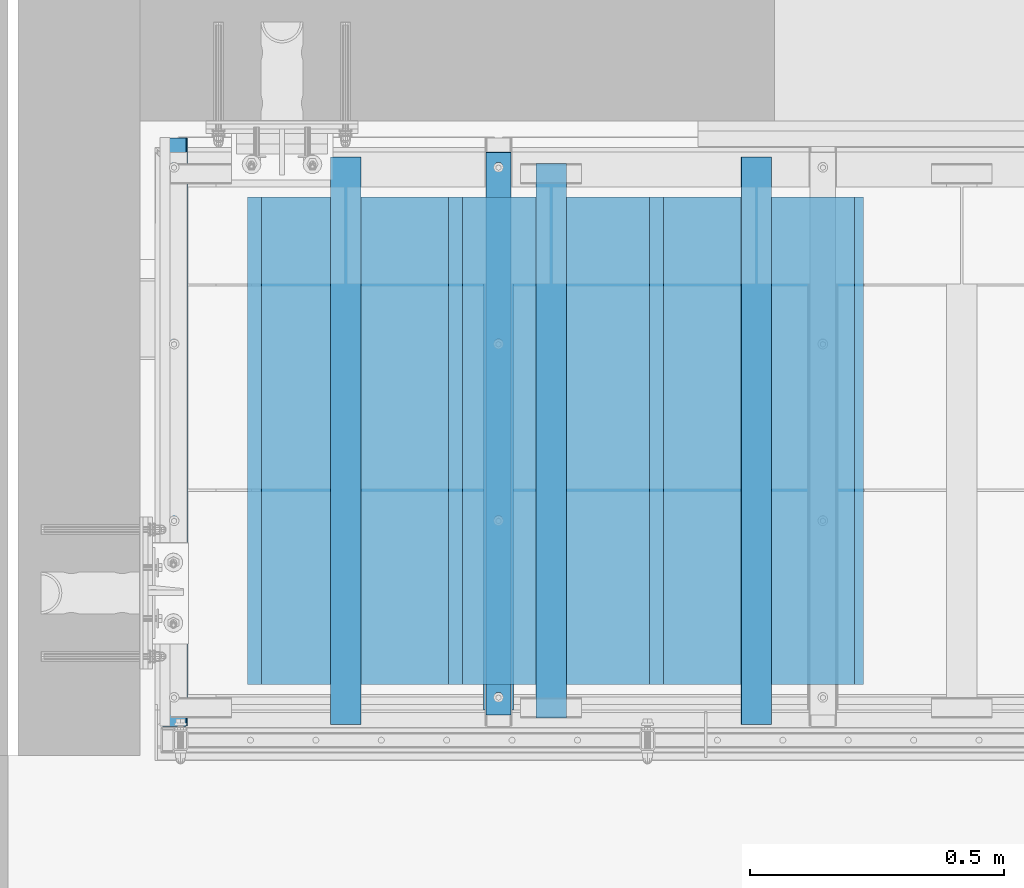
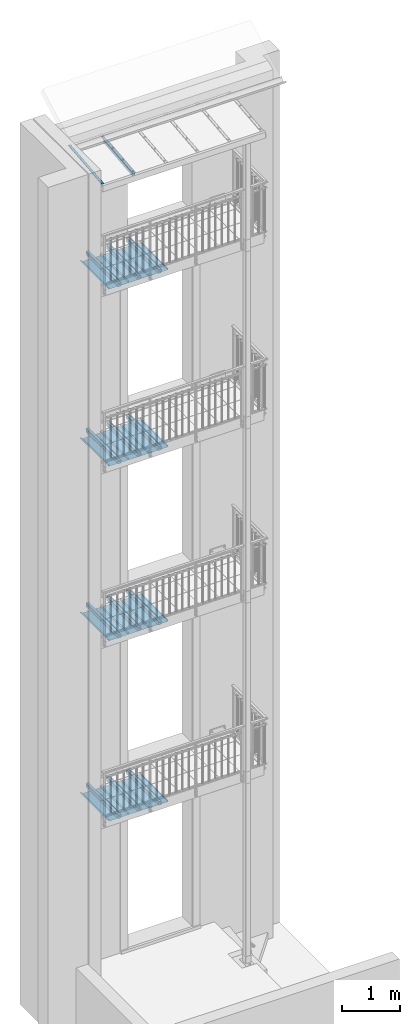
# One storey, part 38 of 162: 24 beams, 3 members, 10 openings.
"""IFC2X3 building model written with IfcOpenShell, lengths in millimetres."""

import ifcopenshell
import ifcopenshell.guid

model = None  # the IFC model being written
_history = None  # IfcOwnerHistory: only IFC2X3 demands one
_inside = {}  # id of a spatial element -> (the spatial element, [elements in it])
_under = {}  # id of a project, library or spatial element -> (it, [spatial elements below it])
_declared = {}  # id of a project -> (the project, [libraries it declares])
_typed = {}  # id of a type object -> (the type object, [elements of that type])
_made_of = {}  # id of a material, layer set ... -> (it, [elements and type objects made of it])


def new_model(schema):
    """Start an empty IFC model of exactly this schema.

    Asked for "IFC4X3", IfcOpenShell would pick the latest addendum, in which some entities
    have other attributes; the version numbers below select the first issue.
    IFC2X3 requires an IfcOwnerHistory on every rooted entity: one is made here for all.
    """
    global model, _history
    if schema == "IFC4X3":
        model = ifcopenshell.file(schema_version=(4, 3, 0, 0))
    else:
        model = ifcopenshell.file(schema=schema)
    _inside.clear()
    _under.clear()
    _declared.clear()
    _typed.clear()
    _made_of.clear()
    _history = None
    if model.schema == "IFC2X3":
        org = make("IfcOrganization", Name="unknown")
        user = make(
            "IfcPersonAndOrganization",
            ThePerson=make("IfcPerson", FamilyName="unknown"),
            TheOrganization=org,
        )
        app = make(
            "IfcApplication",
            ApplicationDeveloper=org,
            Version="unknown",
            ApplicationFullName="unknown",
            ApplicationIdentifier="unknown",
        )
        _history = make(
            "IfcOwnerHistory",
            OwningUser=user,
            OwningApplication=app,
            ChangeAction="ADDED",
            CreationDate=0,
        )
    return model


def make(cls, **values):
    """One entity of the class cls with the attributes given. An attribute that is None is left unset."""
    return model.create_entity(
        cls, **{name: value for name, value in values.items() if value is not None}
    )


def entity(cls, *values):
    """Any entity or typed value of the class cls, its attributes in the order of the schema. None: left unset."""
    e = model.create_entity(cls)
    for i, value in enumerate(values):
        if value is not None:
            e[i] = value
    return e


def rooted(cls, **values):
    """An entity with a GlobalId (a new one), such as an element, a storey or a relation."""
    return make(cls, GlobalId=ifcopenshell.guid.new(), OwnerHistory=_history, **values)


def si_unit(unit_type, name, prefix=None):
    """IfcSIUnit, for example si_unit("LENGTHUNIT", "METRE", prefix="MILLI")."""
    return make("IfcSIUnit", UnitType=unit_type, Prefix=prefix, Name=name)


def converted_unit(unit_type, name, factor, base, dimensions=None, offset=None):
    """IfcConversionBasedUnit, such as the inch: factor (a typed value) times the base unit."""
    return make(
        "IfcConversionBasedUnit"
        if offset is None
        else "IfcConversionBasedUnitWithOffset",
        ConversionOffset=offset,
        Dimensions=None
        if dimensions is None
        else entity("IfcDimensionalExponents", *dimensions),
        UnitType=unit_type,
        Name=name,
        ConversionFactor=make(
            "IfcMeasureWithUnit", ValueComponent=factor, UnitComponent=base
        ),
    )


def assignment(units):
    """IfcUnitAssignment: the units of a project."""
    return None if units is None else make("IfcUnitAssignment", Units=units)


def point(xyz):
    """IfcCartesianPoint."""
    return None if xyz is None else make("IfcCartesianPoint", Coordinates=xyz)


def direction(xyz):
    """IfcDirection."""
    return None if xyz is None else make("IfcDirection", DirectionRatios=xyz)


def frame(location, z_axis=None, x_axis=None):
    """IfcAxis2Placement3D, a coordinate frame: its origin and axes. An axis left out is left unset."""
    return make(
        "IfcAxis2Placement3D",
        Location=point(location),
        Axis=direction(z_axis),
        RefDirection=direction(x_axis),
    )


def frame_2d(location, x_axis=None):
    """IfcAxis2Placement2D, a coordinate frame in the plane: its origin and x axis."""
    return make(
        "IfcAxis2Placement2D", Location=point(location), RefDirection=direction(x_axis)
    )


def origin():
    """The frame at (0, 0, 0) with its axes left unset."""
    return frame((0.0, 0.0, 0.0))


def origin_with_axes():
    """The frame at (0, 0, 0) with the z axis (0, 0, 1) and the x axis (1, 0, 0) written out."""
    return frame((0.0, 0.0, 0.0), z_axis=(0.0, 0.0, 1.0), x_axis=(1.0, 0.0, 0.0))


def origin_2d():
    """The frame at (0, 0) in the plane with its x axis left unset."""
    return frame_2d((0.0, 0.0))


def origin_2d_with_axis():
    """The frame at (0, 0) in the plane with the x axis (1, 0) written out."""
    return frame_2d((0.0, 0.0), x_axis=(1.0, 0.0))


def place(relative_to, where):
    """IfcLocalPlacement: puts the frame where relative to a parent placement (None: the world)."""
    return make(
        "IfcLocalPlacement", PlacementRelTo=relative_to, RelativePlacement=where
    )


def context(
    kind, dimensions, precision=None, world=None, true_north=None, identifier=None
):
    """IfcGeometricRepresentationContext, for example the 3D "Model" context."""
    return make(
        "IfcGeometricRepresentationContext",
        ContextIdentifier=identifier,
        ContextType=kind,
        CoordinateSpaceDimension=dimensions,
        Precision=precision,
        WorldCoordinateSystem=world,
        TrueNorth=true_north,
    )


def project(units=None, contexts=None):
    """IfcProject with its units and contexts."""
    return rooted(
        "IfcProject",
        Name="project",
        RepresentationContexts=contexts,
        UnitsInContext=assignment(units),
    )


def spatial(cls, under=None, at=None, **own):
    """A site, building, storey or space (cls), placed at a placement, below another one or the project."""
    s = rooted(cls, ObjectPlacement=at, **own)
    if under is not None:
        _under.setdefault(under.id(), (under, []))[1].append(s)
    return s


def polyline(points):
    """IfcPolyline through the points."""
    return make("IfcPolyline", Points=[point(p) for p in points])


def circle_curve(where, radius):
    """IfcCircle in the frame where."""
    return make("IfcCircle", Position=where, Radius=radius)


def line_curve(start, along, magnitude):
    """IfcLine from a point along a vector."""
    return make(
        "IfcLine",
        Pnt=point(start),
        Dir=make("IfcVector", Orientation=direction(along), Magnitude=magnitude),
    )


def trimmed(basis, trim1, trim2, sense, master):
    """IfcTrimmedCurve: the piece of a basis curve between two trims."""
    return make(
        "IfcTrimmedCurve",
        BasisCurve=basis,
        Trim1=trim1,
        Trim2=trim2,
        SenseAgreement=sense,
        MasterRepresentation=master,
    )


def segment(curve, same_sense, transition):
    """IfcCompositeCurveSegment."""
    return make(
        "IfcCompositeCurveSegment",
        Transition=transition,
        SameSense=same_sense,
        ParentCurve=curve,
    )


def composite_curve(segments, self_intersect=None):
    """IfcCompositeCurve: segments joined end to end."""
    return make("IfcCompositeCurve", Segments=segments, SelfIntersect=self_intersect)


def profile(cls, at=None, kind="AREA", **sizes):
    """A parametric profile (cls). Its sizes go by their IFC names, for example OverallWidth=200.0."""
    return make(cls, ProfileType=kind, Position=at, **sizes)


def hollow_rectangle(**sizes):
    """IfcRectangleHollowProfileDef."""
    return profile("IfcRectangleHollowProfileDef", **sizes)


def circle(**sizes):
    """IfcCircleProfileDef."""
    return profile("IfcCircleProfileDef", **sizes)


def outline(outer, holes=None, kind="AREA"):
    """IfcArbitraryClosedProfileDef: a profile drawn as a closed curve; with holes, ...WithVoids."""
    if holes is None:
        return make("IfcArbitraryClosedProfileDef", ProfileType=kind, OuterCurve=outer)
    return make(
        "IfcArbitraryProfileDefWithVoids",
        ProfileType=kind,
        OuterCurve=outer,
        InnerCurves=holes,
    )


def extrude(swept, where, along, depth):
    """IfcExtrudedAreaSolid: the profile swept, set in the frame where, extruded along a direction by depth."""
    return make(
        "IfcExtrudedAreaSolid",
        SweptArea=swept,
        Position=where,
        ExtrudedDirection=direction(along),
        Depth=depth,
    )


def shape(context_of_items, identifier, shape_type, items):
    """IfcShapeRepresentation: the items that make up one representation, for example the "Body"."""
    return make(
        "IfcShapeRepresentation",
        ContextOfItems=context_of_items,
        RepresentationIdentifier=identifier,
        RepresentationType=shape_type,
        Items=items,
    )


def material(Name=None, Category=None):
    """IfcMaterial."""
    return make("IfcMaterial", Name=Name, Category=Category)


def made_of(thing, what):
    """Note that an element or type object is made of a material, layer set ...; save() writes the relation."""
    if what is not None:
        _made_of.setdefault(what.id(), (what, []))[1].append(thing)
    return thing


def element(
    cls,
    number,
    at=None,
    inside=None,
    cuts=None,
    type_object=None,
    material=None,
    context=None,
    identifier="Body",
    shape_type=None,
    held_by="IfcProductDefinitionShape",
    body=None,
    shapes=None,
    **own,
):
    """One element of the class cls, such as IfcWall. Its Tag is "e" and its number.

    at: its placement. inside: the storey or other place that contains it. cuts: it is an
    opening in that element (IfcRelVoidsElement). A single representation is given by context,
    identifier, shape_type and body (its items); several are given by shapes. held_by: the class
    of the entity that holds the representations. save() writes the other relations.
    """
    e = rooted(cls, Tag="e%d" % number, ObjectPlacement=at, **own)
    if body is not None:
        shapes = [shape(context, identifier, shape_type, body)]
    if shapes is not None:
        e.Representation = make(held_by, Representations=shapes)
    if inside is not None:
        _inside.setdefault(inside.id(), (inside, []))[1].append(e)
    if cuts is not None:
        rooted(
            "IfcRelVoidsElement", RelatingBuildingElement=cuts, RelatedOpeningElement=e
        )
    if type_object is not None:
        _typed.setdefault(type_object.id(), (type_object, []))[1].append(e)
    return made_of(e, material)


def aggregate(whole, parts):
    """IfcRelAggregates: a whole, such as a stair, and the parts it consists of."""
    return rooted("IfcRelAggregates", RelatingObject=whole, RelatedObjects=parts)


def save(model, path):
    """Write the relations noted so far, then the file.

    IfcRelAggregates (storeys below a building ...), IfcRelContainedInSpatialStructure (elements
    in a storey), IfcRelDefinesByType, IfcRelAssociatesMaterial and IfcRelDeclares: one each for
    every whole, place, type object, material and project.
    """
    for whole, parts in _under.values():
        aggregate(whole, parts)
    for where, things in _inside.values():
        rooted(
            "IfcRelContainedInSpatialStructure",
            RelatedElements=things,
            RelatingStructure=where,
        )
    for kind, things in _typed.values():
        rooted("IfcRelDefinesByType", RelatedObjects=things, RelatingType=kind)
    for what, things in _made_of.values():
        rooted("IfcRelAssociatesMaterial", RelatedObjects=things, RelatingMaterial=what)
    for by, libraries in _declared.values():
        rooted("IfcRelDeclares", RelatingContext=by, RelatedDefinitions=libraries)
    model.write(path)


model = new_model("IFC2X3")

# Units and contexts
model_context = context("Model", 3, precision=1e-09, world=origin_with_axes())
ifc_project = project(units=[si_unit("LENGTHUNIT", "METRE", prefix="MILLI"), si_unit("AREAUNIT", "SQUARE_METRE"), si_unit("VOLUMEUNIT", "CUBIC_METRE"), converted_unit("PLANEANGLEUNIT", "DEGREE", entity("IfcPlaneAngleMeasure", 0.01745329), si_unit("PLANEANGLEUNIT", "RADIAN"), dimensions=[0, 0, 0, 0, 0, 0, 0])], contexts=[model_context])

# Site, building, storey
site_placement = place(None, origin_with_axes())
site = spatial("IfcSite", under=ifc_project, at=site_placement, Name="Hermannstra?e 1a, 60318 Frankfurt", CompositionType="ELEMENT")
building_placement = place(site_placement, origin_with_axes())
building = spatial("IfcBuilding", under=site, at=building_placement, Name="Struktur 1", CompositionType="ELEMENT")
storey_placement = place(building_placement, origin_with_axes())
storey = spatial("IfcBuildingStorey", under=building, at=storey_placement, Name="Default Storey", CompositionType="ELEMENT", Elevation=0.0)

# Beams
ifc_material_1 = material(Name="S235JR")
for number, where, z_axis, x_axis in (
    (1, (3738.05936482, 1546.109373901, 7685.0), (0.0, 1.0, 0.0), (-1.0, 0.0, 0.0)),
    (2, (2929.05936482, 1546.109373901, 7685.0), (0.0, 1.0, 0.0), (-1.0, 0.0, 0.0)),
):
    element("IfcBeam", number, at=place(None, frame(where, z_axis=z_axis, x_axis=x_axis)), inside=storey, material=ifc_material_1, Name="-", ObjectType="-", context=model_context, shape_type="SweptSolid", body=[
        extrude(hollow_rectangle(XDim=60.0, YDim=80.0, WallThickness=4.0, InnerFilletRadius=4.0, OuterFilletRadius=8.0, at=origin_2d()), origin(), (0.0, 0.0, 1.0), 1119.0),
    ])
beam_1_placement = place(None, frame((3333.55936482, 1559.609373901, 7685.0), z_axis=(0.0, 1.0, 0.0), x_axis=(-1.0, 0.0, 0.0)))
element("IfcBeam", 3, at=beam_1_placement, inside=storey, material=ifc_material_1, Name="-", ObjectType="-", context=model_context, shape_type="SweptSolid", body=[
    extrude(hollow_rectangle(XDim=60.0, YDim=80.0, WallThickness=4.0, InnerFilletRadius=4.0, OuterFilletRadius=8.0, at=origin_2d()), origin(), (0.0, 0.0, 1.0), 1092.0),
])
ifc_material_2 = material(Name="Alu")
for number, where, z_axis, x_axis in (
    (4, (3552.80936482, 1625.609373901, 7595.0), (0.0, -1.0, 0.0), (1.0, 0.0, 0.0)),
    (5, (3156.80936482, 1625.609373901, 7595.0), (0.0, -1.0, 0.0), (1.0, 0.0, 0.0)),
    (6, (3948.80936482, 1625.609373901, 7595.0), (0.0, -1.0, 0.0), (1.0, 0.0, 0.0)),
):
    element("IfcBeam", number, at=place(None, frame(where, z_axis=z_axis, x_axis=x_axis)), inside=storey, material=ifc_material_2, Name="-", ObjectType="-", context=model_context, shape_type="SweptSolid", body=[
        extrude(outline(polyline([(-421.449159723, 31.122617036), (-396.0, 34.699263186), (-396.0, 0.0), (0.0, 0.0), (0.0, 34.0), (-17.824825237, 31.494884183), (-17.546479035, 29.514348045), (-2.0, 31.699263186), (-2.0, 2.0), (-394.0, 2.0), (-394.0, 37.0), (-421.727505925, 33.103153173), (-421.449159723, 31.122617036)])), origin(), (0.0, 0.0, -1.0), 960.0),
    ])
for number, where, z_axis, x_axis in (
    (7, (3738.05936482, 1546.109373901, 11384.999), (0.0, 1.0, 0.0), (-1.0, 0.0, 0.0)),
    (8, (2929.05936482, 1546.109373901, 11384.999), (0.0, 1.0, 0.0), (-1.0, 0.0, 0.0)),
):
    element("IfcBeam", number, at=place(None, frame(where, z_axis=z_axis, x_axis=x_axis)), inside=storey, material=ifc_material_1, Name="-", ObjectType="-", context=model_context, shape_type="SweptSolid", body=[
        extrude(hollow_rectangle(XDim=60.0, YDim=80.0, WallThickness=4.0, InnerFilletRadius=4.0, OuterFilletRadius=8.0, at=origin_2d()), origin(), (0.0, 0.0, 1.0), 1119.0),
    ])
beam_2_placement = place(None, frame((3333.55936482, 1559.609373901, 11384.999), z_axis=(0.0, 1.0, 0.0), x_axis=(-1.0, 0.0, 0.0)))
element("IfcBeam", 9, at=beam_2_placement, inside=storey, material=ifc_material_1, Name="-", ObjectType="-", context=model_context, shape_type="SweptSolid", body=[
    extrude(hollow_rectangle(XDim=60.0, YDim=80.0, WallThickness=4.0, InnerFilletRadius=4.0, OuterFilletRadius=8.0, at=origin_2d()), origin(), (0.0, 0.0, 1.0), 1092.0),
])
for number, where, z_axis, x_axis in (
    (10, (3552.80936482, 1625.609373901, 11294.999), (0.0, -1.0, 0.0), (1.0, 0.0, 0.0)),
    (11, (3156.80936482, 1625.609373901, 11294.999), (0.0, -1.0, 0.0), (1.0, 0.0, 0.0)),
    (12, (3948.80936482, 1625.609373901, 11294.999), (0.0, -1.0, 0.0), (1.0, 0.0, 0.0)),
):
    element("IfcBeam", number, at=place(None, frame(where, z_axis=z_axis, x_axis=x_axis)), inside=storey, material=ifc_material_2, Name="-", ObjectType="-", context=model_context, shape_type="SweptSolid", body=[
        extrude(outline(polyline([(-421.449159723, 31.122617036), (-396.0, 34.699263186), (-396.0, 0.0), (0.0, 0.0), (0.0, 34.0), (-17.824825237, 31.494884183), (-17.546479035, 29.514348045), (-2.0, 31.699263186), (-2.0, 2.0), (-394.0, 2.0), (-394.0, 37.0), (-421.727505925, 33.103153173), (-421.449159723, 31.122617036)])), origin(), (0.0, 0.0, -1.0), 960.0),
    ])
for number, where, z_axis, x_axis in (
    (13, (3738.05936482, 1546.109373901, 15141.999), (0.0, 1.0, 0.0), (-1.0, 0.0, 0.0)),
    (14, (2929.05936482, 1546.109373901, 15141.999), (0.0, 1.0, 0.0), (-1.0, 0.0, 0.0)),
):
    element("IfcBeam", number, at=place(None, frame(where, z_axis=z_axis, x_axis=x_axis)), inside=storey, material=ifc_material_1, Name="-", ObjectType="-", context=model_context, shape_type="SweptSolid", body=[
        extrude(hollow_rectangle(XDim=60.0, YDim=80.0, WallThickness=4.0, InnerFilletRadius=4.0, OuterFilletRadius=8.0, at=origin_2d()), origin(), (0.0, 0.0, 1.0), 1119.0),
    ])
beam_3_placement = place(None, frame((3333.55936482, 1559.609373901, 15141.999), z_axis=(0.0, 1.0, 0.0), x_axis=(-1.0, 0.0, 0.0)))
element("IfcBeam", 15, at=beam_3_placement, inside=storey, material=ifc_material_1, Name="-", ObjectType="-", context=model_context, shape_type="SweptSolid", body=[
    extrude(hollow_rectangle(XDim=60.0, YDim=80.0, WallThickness=4.0, InnerFilletRadius=4.0, OuterFilletRadius=8.0, at=origin_2d()), origin(), (0.0, 0.0, 1.0), 1092.0),
])
for number, where, z_axis, x_axis in (
    (16, (3552.80936482, 1625.609373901, 15051.999), (0.0, -1.0, 0.0), (1.0, 0.0, 0.0)),
    (17, (3156.80936482, 1625.609373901, 15051.999), (0.0, -1.0, 0.0), (1.0, 0.0, 0.0)),
    (18, (3948.80936482, 1625.609373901, 15051.999), (0.0, -1.0, 0.0), (1.0, 0.0, 0.0)),
):
    element("IfcBeam", number, at=place(None, frame(where, z_axis=z_axis, x_axis=x_axis)), inside=storey, material=ifc_material_2, Name="-", ObjectType="-", context=model_context, shape_type="SweptSolid", body=[
        extrude(outline(polyline([(-421.449159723, 31.122617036), (-396.0, 34.699263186), (-396.0, 0.0), (0.0, 0.0), (0.0, 34.0), (-17.824825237, 31.494884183), (-17.546479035, 29.514348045), (-2.0, 31.699263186), (-2.0, 2.0), (-394.0, 2.0), (-394.0, 37.0), (-421.727505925, 33.103153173), (-421.449159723, 31.122617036)])), origin(), (0.0, 0.0, -1.0), 960.0),
    ])
for number, where, z_axis, x_axis in (
    (19, (3738.05936482, 1546.109373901, 3860.0), (0.0, 1.0, 0.0), (-1.0, 0.0, 0.0)),
    (20, (2929.05936482, 1546.109373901, 3860.0), (0.0, 1.0, 0.0), (-1.0, 0.0, 0.0)),
):
    element("IfcBeam", number, at=place(None, frame(where, z_axis=z_axis, x_axis=x_axis)), inside=storey, material=ifc_material_1, Name="-", ObjectType="-", context=model_context, shape_type="SweptSolid", body=[
        extrude(hollow_rectangle(XDim=60.0, YDim=80.0, WallThickness=4.0, InnerFilletRadius=4.0, OuterFilletRadius=8.0, at=origin_2d()), origin(), (0.0, 0.0, 1.0), 1119.0),
    ])
beam_4_placement = place(None, frame((3333.55936482, 1559.609373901, 3860.0), z_axis=(0.0, 1.0, 0.0), x_axis=(-1.0, 0.0, 0.0)))
element("IfcBeam", 21, at=beam_4_placement, inside=storey, material=ifc_material_1, Name="-", ObjectType="-", context=model_context, shape_type="SweptSolid", body=[
    extrude(hollow_rectangle(XDim=60.0, YDim=80.0, WallThickness=4.0, InnerFilletRadius=4.0, OuterFilletRadius=8.0, at=origin_2d()), origin(), (0.0, 0.0, 1.0), 1092.0),
])
for number, where, z_axis, x_axis in (
    (22, (3156.80936482, 1625.609373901, 3770.0), (0.0, -1.0, 0.0), (1.0, 0.0, 0.0)),
    (23, (3948.80936482, 1625.609373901, 3770.0), (0.0, -1.0, 0.0), (1.0, 0.0, 0.0)),
    (24, (3552.80936482, 1625.609373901, 3770.0), (0.0, -1.0, 0.0), (1.0, 0.0, 0.0)),
):
    element("IfcBeam", number, at=place(None, frame(where, z_axis=z_axis, x_axis=x_axis)), inside=storey, material=ifc_material_2, Name="-", ObjectType="-", context=model_context, shape_type="SweptSolid", body=[
        extrude(outline(polyline([(-421.449159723, 31.122617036), (-396.0, 34.699263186), (-396.0, 0.0), (0.0, 0.0), (0.0, 34.0), (-17.824825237, 31.494884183), (-17.546479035, 29.514348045), (-2.0, 31.699263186), (-2.0, 2.0), (-394.0, 2.0), (-394.0, 37.0), (-421.727505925, 33.103153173), (-421.449159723, 31.122617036)])), origin(), (0.0, 0.0, -1.0), 960.0),
    ])

# Member, openings
member_1_placement = place(None, frame((3229.80936482, 2577.737210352, 17461.612395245), z_axis=(0.0, 0.994521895, 0.104528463), x_axis=(0.0, -0.104528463, 0.994521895)))
member_1 = element("IfcMember", 25, at=member_1_placement, inside=storey, material=ifc_material_1, Name="-", ObjectType="-", context=model_context, shape_type="SweptSolid", body=[
    extrude(hollow_rectangle(XDim=60.0, YDim=60.0, WallThickness=3.0, InnerFilletRadius=3.0, OuterFilletRadius=6.0, at=origin_2d()), origin(), (0.0, 0.0, -1.0), 1004.995580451),
])
opening_1_placement = place(member_1_placement, frame((0.0, -26.5, 0.0), z_axis=(0.0, -1.0, 0.0), x_axis=(1.0, 0.0, 0.0)))
element("IfcOpeningElement", 26, at=opening_1_placement, cuts=member_1, ObjectType="Opening", context=model_context, shape_type="SweptSolid", body=[
    extrude(circle(Radius=6.001, at=frame_2d((0.0, -10.0), x_axis=(1.0, 0.0))), origin(), (0.0, 0.0, 1.0), 4.0),
])
opening_2_placement = place(member_1_placement, frame((0.0, 26.5, -794.995580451), z_axis=(0.0, 1.0, 0.0), x_axis=(1.0, 0.0, 0.0)))
element("IfcOpeningElement", 27, at=opening_2_placement, cuts=member_1, ObjectType="Opening", context=model_context, shape_type="SweptSolid", body=[
    extrude(circle(Radius=6.001, at=frame_2d((0.0, 200.0), x_axis=(1.0, 0.0))), origin(), (0.0, 0.0, 1.0), 4.0),
])

ifc_material_3 = material(Name="Gummi")
member_2_placement = place(None, frame((3229.80936482, 1565.009235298, 17386.843906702), z_axis=(0.0, -0.994521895, -0.104528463), x_axis=(1.0, 0.0, 0.0)))
member_2 = element("IfcMember", 28, at=member_2_placement, inside=storey, material=ifc_material_3, Name="Girder", ObjectType="Girder", context=model_context, shape_type="SweptSolid", body=[
    extrude(outline(polyline([(-25.0, 1.5), (-25.0, -1.5), (25.0, -1.5), (25.0, 1.5), (-25.0, 1.5)])), origin(), (0.0, 0.0, -1.0), 1114.995580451),
])
opening_3_placement = place(member_2_placement, frame((2e-09, -2.0, -37.497790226), z_axis=(0.0, 1.0, 0.0), x_axis=(1.0, 0.0, 0.0)))
element("IfcOpeningElement", 29, at=opening_3_placement, cuts=member_2, ObjectType="Opening", context=model_context, shape_type="SweptSolid", body=[
    extrude(circle(Radius=8.001, at=origin_2d_with_axis()), origin(), (0.0, 0.0, 1.0), 4.0),
])
opening_4_placement = place(member_2_placement, frame((2e-09, -2.0, -387.497790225), z_axis=(0.0, 1.0, 0.0), x_axis=(1.0, 0.0, 0.0)))
element("IfcOpeningElement", 30, at=opening_4_placement, cuts=member_2, ObjectType="Opening", context=model_context, shape_type="SweptSolid", body=[
    extrude(circle(Radius=8.001, at=origin_2d_with_axis()), origin(), (0.0, 0.0, 1.0), 4.0),
])
opening_5_placement = place(member_2_placement, frame((2e-09, -2.0, -737.497790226), z_axis=(0.0, 1.0, 0.0), x_axis=(1.0, 0.0, 0.0)))
element("IfcOpeningElement", 31, at=opening_5_placement, cuts=member_2, ObjectType="Opening", context=model_context, shape_type="SweptSolid", body=[
    extrude(circle(Radius=8.001, at=origin_2d_with_axis()), origin(), (0.0, 0.0, 1.0), 4.0),
])
opening_6_placement = place(member_2_placement, frame((2e-09, -2.0, -1087.497790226), z_axis=(0.0, 1.0, 0.0), x_axis=(1.0, 0.0, 0.0)))
element("IfcOpeningElement", 32, at=opening_6_placement, cuts=member_2, ObjectType="Opening", context=model_context, shape_type="SweptSolid", body=[
    extrude(circle(Radius=8.001, at=origin_2d_with_axis()), origin(), (0.0, 0.0, 1.0), 4.0),
])

member_3_placement = place(None, frame((2590.80936482, 1543.575957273, 17399.432480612), z_axis=(0.0, 0.994521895, 0.104528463), x_axis=(-1.0, 0.0, 0.0)))
member_3 = element("IfcMember", 33, at=member_3_placement, inside=storey, material=ifc_material_2, Name="Girder", ObjectType="Girder", context=model_context, shape_type="SweptSolid", body=[
    extrude(outline(composite_curve([segment(trimmed(line_curve((10.75, -4.5), (1.0, 0.0), 0.5), [point((10.75, -4.5))], [point((11.25, -4.5))], True, "CARTESIAN"), True, "CONTINUOUS"), segment(trimmed(line_curve((11.25, -4.5), (0.0, 1.0), 1.0), [point((11.25, -4.5))], [point((11.25, -3.5))], True, "CARTESIAN"), True, "CONTINUOUS"), segment(trimmed(line_curve((11.25, -3.5), (1.0, 0.0), 1.0), [point((11.25, -3.5))], [point((12.25, -3.5))], True, "CARTESIAN"), True, "CONTINUOUS"), segment(trimmed(line_curve((12.25, -3.5), (0.0, -1.0), 1.0), [point((12.25, -3.5))], [point((12.25, -4.5))], True, "CARTESIAN"), True, "CONTINUOUS"), segment(trimmed(line_curve((12.25, -4.5), (1.0, 0.0), 1.0), [point((12.25, -4.5))], [point((13.25, -4.5))], True, "CARTESIAN"), True, "CONTINUOUS"), segment(trimmed(line_curve((13.25, -4.5), (0.0, 1.0), 1.0), [point((13.25, -4.5))], [point((13.25, -3.5))], True, "CARTESIAN"), True, "CONTINUOUS"), segment(trimmed(line_curve((13.25, -3.5), (1.0, 0.0), 1.0), [point((13.25, -3.5))], [point((14.25, -3.5))], True, "CARTESIAN"), True, "CONTINUOUS"), segment(trimmed(line_curve((14.25, -3.5), (0.0, -1.0), 1.0), [point((14.25, -3.5))], [point((14.25, -4.5))], True, "CARTESIAN"), True, "CONTINUOUS"), segment(trimmed(line_curve((14.25, -4.5), (1.0, 0.0), 1.0), [point((14.25, -4.5))], [point((15.25, -4.5))], True, "CARTESIAN"), True, "CONTINUOUS"), segment(trimmed(line_curve((15.25, -4.5), (0.0, 1.0), 1.0), [point((15.25, -4.5))], [point((15.25, -3.5))], True, "CARTESIAN"), True, "CONTINUOUS"), segment(trimmed(line_curve((15.25, -3.5), (1.0, 0.0), 1.0), [point((15.25, -3.5))], [point((16.25, -3.5))], True, "CARTESIAN"), True, "CONTINUOUS"), segment(trimmed(line_curve((16.25, -3.5), (0.0, -1.0), 1.0), [point((16.25, -3.5))], [point((16.25, -4.5))], True, "CARTESIAN"), True, "CONTINUOUS"), segment(trimmed(line_curve((16.25, -4.5), (1.0, 0.0), 1.0), [point((16.25, -4.5))], [point((17.25, -4.5))], True, "CARTESIAN"), True, "CONTINUOUS"), segment(trimmed(line_curve((17.25, -4.5), (0.0, 1.0), 1.0), [point((17.25, -4.5))], [point((17.25, -3.5))], True, "CARTESIAN"), True, "CONTINUOUS"), segment(trimmed(line_curve((17.25, -3.5), (1.0, 0.0), 1.0), [point((17.25, -3.5))], [point((18.25, -3.5))], True, "CARTESIAN"), True, "CONTINUOUS"), segment(trimmed(line_curve((18.25, -3.5), (0.0, -1.0), 1.0), [point((18.25, -3.5))], [point((18.25, -4.5))], True, "CARTESIAN"), True, "CONTINUOUS"), segment(trimmed(line_curve((18.25, -4.5), (1.0, 0.0), 1.0), [point((18.25, -4.5))], [point((19.25, -4.5))], True, "CARTESIAN"), True, "CONTINUOUS"), segment(trimmed(line_curve((19.25, -4.5), (0.0, 1.0), 1.0), [point((19.25, -4.5))], [point((19.25, -3.5))], True, "CARTESIAN"), True, "CONTINUOUS"), segment(trimmed(line_curve((19.25, -3.5), (1.0, 0.0), 1.0), [point((19.25, -3.5))], [point((20.25, -3.5))], True, "CARTESIAN"), True, "CONTINUOUS"), segment(trimmed(line_curve((20.25, -3.5), (0.0, -1.0), 1.0), [point((20.25, -3.5))], [point((20.25, -4.5))], True, "CARTESIAN"), True, "CONTINUOUS"), segment(trimmed(line_curve((20.25, -4.5), (1.0, 0.0), 1.0), [point((20.25, -4.5))], [point((21.25, -4.5))], True, "CARTESIAN"), True, "CONTINUOUS"), segment(trimmed(line_curve((21.25, -4.5), (0.0, 1.0), 1.0), [point((21.25, -4.5))], [point((21.25, -3.5))], True, "CARTESIAN"), True, "CONTINUOUS"), segment(trimmed(line_curve((21.25, -3.5), (1.0, 0.0), 1.0), [point((21.25, -3.5))], [point((22.25, -3.5))], True, "CARTESIAN"), True, "CONTINUOUS"), segment(trimmed(line_curve((22.25, -3.5), (0.0, -1.0), 1.0), [point((22.25, -3.5))], [point((22.25, -4.5))], True, "CARTESIAN"), True, "CONTINUOUS"), segment(trimmed(line_curve((22.25, -4.5), (1.0, 0.0), 1.0), [point((22.25, -4.5))], [point((23.25, -4.5))], True, "CARTESIAN"), True, "CONTINUOUS"), segment(trimmed(line_curve((23.25, -4.5), (0.0, 1.0), 1.0), [point((23.25, -4.5))], [point((23.25, -3.5))], True, "CARTESIAN"), True, "CONTINUOUS"), segment(trimmed(line_curve((23.25, -3.5), (1.0, 0.0), 1.0), [point((23.25, -3.5))], [point((24.25, -3.5))], True, "CARTESIAN"), True, "CONTINUOUS"), segment(trimmed(line_curve((24.25, -3.5), (0.0, -1.0), 1.0), [point((24.25, -3.5))], [point((24.25, -4.5))], True, "CARTESIAN"), True, "CONTINUOUS"), segment(trimmed(line_curve((24.25, -4.5), (1.0, 0.0), 1.0), [point((24.25, -4.5))], [point((25.25, -4.5))], True, "CARTESIAN"), True, "CONTINUOUS"), segment(trimmed(line_curve((25.25, -4.5), (0.0, 1.0), 1.0), [point((25.25, -4.5))], [point((25.25, -3.5))], True, "CARTESIAN"), True, "CONTINUOUS"), segment(trimmed(line_curve((25.25, -3.5), (1.0, 0.0), 1.0), [point((25.25, -3.5))], [point((26.25, -3.5))], True, "CARTESIAN"), True, "CONTINUOUS"), segment(trimmed(line_curve((26.25, -3.5), (0.0, -1.0), 1.0), [point((26.25, -3.5))], [point((26.25, -4.5))], True, "CARTESIAN"), True, "CONTINUOUS"), segment(trimmed(line_curve((26.25, -4.5), (1.0, 0.0), 0.5), [point((26.25, -4.5))], [point((26.75, -4.5))], True, "CARTESIAN"), True, "CONTINUOUS"), segment(trimmed(line_curve((26.75, -4.5), (0.0, 1.0), 4.0), [point((26.75, -4.5))], [point((26.75, -0.5))], True, "CARTESIAN"), True, "CONTINUOUS"), segment(trimmed(line_curve((26.75, -0.5), (-1.0, 0.0), 1.75), [point((26.75, -0.5))], [point((25.0, -0.5))], True, "CARTESIAN"), True, "CONTINUOUS"), segment(trimmed(line_curve((25.0, -0.5), (0.0, 1.0), 1.5), [point((25.0, -0.5))], [point((25.0, 1.0))], True, "CARTESIAN"), True, "CONTINUOUS"), segment(trimmed(circle_curve(frame_2d((21.499999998, 0.999999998), x_axis=(1.0, 0.0)), 3.500000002), [point((25.0, 1.0))], [point((21.5, 4.5))], True, "CARTESIAN"), True, "CONTINUOUS"), segment(trimmed(line_curve((21.5, 4.5), (-1.0, 0.0), 43.0), [point((21.5, 4.5))], [point((-21.5, 4.5))], True, "CARTESIAN"), True, "CONTINUOUS"), segment(trimmed(circle_curve(frame_2d((-21.499999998, 0.999999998), x_axis=(1.0, 0.0)), 3.500000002), [point((-21.5, 4.5))], [point((-25.0, 1.0))], True, "CARTESIAN"), True, "CONTINUOUS"), segment(trimmed(line_curve((-25.0, 1.0), (0.0, -1.0), 1.5), [point((-25.0, 1.0))], [point((-25.0, -0.5))], True, "CARTESIAN"), True, "CONTINUOUS"), segment(trimmed(line_curve((-25.0, -0.5), (-1.0, 0.0), 1.75), [point((-25.0, -0.5))], [point((-26.75, -0.5))], True, "CARTESIAN"), True, "CONTINUOUS"), segment(trimmed(line_curve((-26.75, -0.5), (0.0, -1.0), 4.0), [point((-26.75, -0.5))], [point((-26.75, -4.5))], True, "CARTESIAN"), True, "CONTINUOUS"), segment(trimmed(line_curve((-26.75, -4.5), (1.0, 0.0), 0.5), [point((-26.75, -4.5))], [point((-26.25, -4.5))], True, "CARTESIAN"), True, "CONTINUOUS"), segment(trimmed(line_curve((-26.25, -4.5), (0.0, 1.0), 1.0), [point((-26.25, -4.5))], [point((-26.25, -3.5))], True, "CARTESIAN"), True, "CONTINUOUS"), segment(trimmed(line_curve((-26.25, -3.5), (1.0, 0.0), 1.0), [point((-26.25, -3.5))], [point((-25.25, -3.5))], True, "CARTESIAN"), True, "CONTINUOUS"), segment(trimmed(line_curve((-25.25, -3.5), (0.0, -1.0), 1.0), [point((-25.25, -3.5))], [point((-25.25, -4.5))], True, "CARTESIAN"), True, "CONTINUOUS"), segment(trimmed(line_curve((-25.25, -4.5), (1.0, 0.0), 1.0), [point((-25.25, -4.5))], [point((-24.25, -4.5))], True, "CARTESIAN"), True, "CONTINUOUS"), segment(trimmed(line_curve((-24.25, -4.5), (0.0, 1.0), 1.0), [point((-24.25, -4.5))], [point((-24.25, -3.5))], True, "CARTESIAN"), True, "CONTINUOUS"), segment(trimmed(line_curve((-24.25, -3.5), (1.0, 0.0), 1.0), [point((-24.25, -3.5))], [point((-23.25, -3.5))], True, "CARTESIAN"), True, "CONTINUOUS"), segment(trimmed(line_curve((-23.25, -3.5), (0.0, -1.0), 1.0), [point((-23.25, -3.5))], [point((-23.25, -4.5))], True, "CARTESIAN"), True, "CONTINUOUS"), segment(trimmed(line_curve((-23.25, -4.5), (1.0, 0.0), 1.0), [point((-23.25, -4.5))], [point((-22.25, -4.5))], True, "CARTESIAN"), True, "CONTINUOUS"), segment(trimmed(line_curve((-22.25, -4.5), (0.0, 1.0), 1.0), [point((-22.25, -4.5))], [point((-22.25, -3.5))], True, "CARTESIAN"), True, "CONTINUOUS"), segment(trimmed(line_curve((-22.25, -3.5), (1.0, 0.0), 1.0), [point((-22.25, -3.5))], [point((-21.25, -3.5))], True, "CARTESIAN"), True, "CONTINUOUS"), segment(trimmed(line_curve((-21.25, -3.5), (0.0, -1.0), 1.0), [point((-21.25, -3.5))], [point((-21.25, -4.5))], True, "CARTESIAN"), True, "CONTINUOUS"), segment(trimmed(line_curve((-21.25, -4.5), (1.0, 0.0), 1.0), [point((-21.25, -4.5))], [point((-20.25, -4.5))], True, "CARTESIAN"), True, "CONTINUOUS"), segment(trimmed(line_curve((-20.25, -4.5), (0.0, 1.0), 1.0), [point((-20.25, -4.5))], [point((-20.25, -3.5))], True, "CARTESIAN"), True, "CONTINUOUS"), segment(trimmed(line_curve((-20.25, -3.5), (1.0, 0.0), 1.0), [point((-20.25, -3.5))], [point((-19.25, -3.5))], True, "CARTESIAN"), True, "CONTINUOUS"), segment(trimmed(line_curve((-19.25, -3.5), (0.0, -1.0), 1.0), [point((-19.25, -3.5))], [point((-19.25, -4.5))], True, "CARTESIAN"), True, "CONTINUOUS"), segment(trimmed(line_curve((-19.25, -4.5), (1.0, 0.0), 1.0), [point((-19.25, -4.5))], [point((-18.25, -4.5))], True, "CARTESIAN"), True, "CONTINUOUS"), segment(trimmed(line_curve((-18.25, -4.5), (0.0, 1.0), 1.0), [point((-18.25, -4.5))], [point((-18.25, -3.5))], True, "CARTESIAN"), True, "CONTINUOUS"), segment(trimmed(line_curve((-18.25, -3.5), (1.0, 0.0), 1.0), [point((-18.25, -3.5))], [point((-17.25, -3.5))], True, "CARTESIAN"), True, "CONTINUOUS"), segment(trimmed(line_curve((-17.25, -3.5), (0.0, -1.0), 1.0), [point((-17.25, -3.5))], [point((-17.25, -4.5))], True, "CARTESIAN"), True, "CONTINUOUS"), segment(trimmed(line_curve((-17.25, -4.5), (1.0, 0.0), 1.0), [point((-17.25, -4.5))], [point((-16.25, -4.5))], True, "CARTESIAN"), True, "CONTINUOUS"), segment(trimmed(line_curve((-16.25, -4.5), (0.0, 1.0), 1.0), [point((-16.25, -4.5))], [point((-16.25, -3.5))], True, "CARTESIAN"), True, "CONTINUOUS"), segment(trimmed(line_curve((-16.25, -3.5), (1.0, 0.0), 1.0), [point((-16.25, -3.5))], [point((-15.25, -3.5))], True, "CARTESIAN"), True, "CONTINUOUS"), segment(trimmed(line_curve((-15.25, -3.5), (0.0, -1.0), 1.0), [point((-15.25, -3.5))], [point((-15.25, -4.5))], True, "CARTESIAN"), True, "CONTINUOUS"), segment(trimmed(line_curve((-15.25, -4.5), (1.0, 0.0), 1.0), [point((-15.25, -4.5))], [point((-14.25, -4.5))], True, "CARTESIAN"), True, "CONTINUOUS"), segment(trimmed(line_curve((-14.25, -4.5), (0.0, 1.0), 1.0), [point((-14.25, -4.5))], [point((-14.25, -3.5))], True, "CARTESIAN"), True, "CONTINUOUS"), segment(trimmed(line_curve((-14.25, -3.5), (1.0, 0.0), 1.0), [point((-14.25, -3.5))], [point((-13.25, -3.5))], True, "CARTESIAN"), True, "CONTINUOUS"), segment(trimmed(line_curve((-13.25, -3.5), (0.0, -1.0), 1.0), [point((-13.25, -3.5))], [point((-13.25, -4.5))], True, "CARTESIAN"), True, "CONTINUOUS"), segment(trimmed(line_curve((-13.25, -4.5), (1.0, 0.0), 1.0), [point((-13.25, -4.5))], [point((-12.25, -4.5))], True, "CARTESIAN"), True, "CONTINUOUS"), segment(trimmed(line_curve((-12.25, -4.5), (0.0, 1.0), 1.0), [point((-12.25, -4.5))], [point((-12.25, -3.5))], True, "CARTESIAN"), True, "CONTINUOUS"), segment(trimmed(line_curve((-12.25, -3.5), (1.0, 0.0), 1.0), [point((-12.25, -3.5))], [point((-11.25, -3.5))], True, "CARTESIAN"), True, "CONTINUOUS"), segment(trimmed(line_curve((-11.25, -3.5), (0.0, -1.0), 1.0), [point((-11.25, -3.5))], [point((-11.25, -4.5))], True, "CARTESIAN"), True, "CONTINUOUS"), segment(trimmed(line_curve((-11.25, -4.5), (1.0, 0.0), 0.5), [point((-11.25, -4.5))], [point((-10.75, -4.5))], True, "CARTESIAN"), True, "CONTINUOUS"), segment(trimmed(line_curve((-10.75, -4.5), (0.0, 1.0), 4.0), [point((-10.75, -4.5))], [point((-10.75, -0.5))], True, "CARTESIAN"), True, "CONTINUOUS"), segment(trimmed(line_curve((-10.75, -0.5), (-1.0, 0.0), 1.75), [point((-10.75, -0.5))], [point((-12.5, -0.5))], True, "CARTESIAN"), True, "CONTINUOUS"), segment(trimmed(line_curve((-12.5, -0.5), (0.0, 1.0), 3.0), [point((-12.5, -0.5))], [point((-12.5, 2.5))], True, "CARTESIAN"), True, "CONTINUOUS"), segment(trimmed(line_curve((-12.5, 2.5), (1.0, 0.0), 25.0), [point((-12.5, 2.5))], [point((12.5, 2.5))], True, "CARTESIAN"), True, "CONTINUOUS"), segment(trimmed(line_curve((12.5, 2.5), (0.0, -1.0), 3.0), [point((12.5, 2.5))], [point((12.5, -0.5))], True, "CARTESIAN"), True, "CONTINUOUS"), segment(trimmed(line_curve((12.5, -0.5), (-1.0, 0.0), 1.75), [point((12.5, -0.5))], [point((10.75, -0.5))], True, "CARTESIAN"), True, "CONTINUOUS"), segment(trimmed(line_curve((10.75, -0.5), (0.0, -1.0), 4.0), [point((10.75, -0.5))], [point((10.75, -4.5))], True, "CARTESIAN"), True, "CONTINUOUS")], self_intersect=False), holes=[composite_curve([segment(trimmed(line_curve((16.25, -0.5), (1.0, 0.0), 5.0), [point((16.25, -0.5))], [point((21.25, -0.5))], True, "CARTESIAN"), True, "CONTINUOUS"), segment(trimmed(line_curve((21.25, -0.5), (0.0, 1.0), 1.5), [point((21.25, -0.5))], [point((21.25, 1.0))], True, "CARTESIAN"), True, "CONTINUOUS"), segment(trimmed(line_curve((21.25, 1.0), (1.0, 0.0), 2.25), [point((21.25, 1.0))], [point((23.5, 1.0))], True, "CARTESIAN"), True, "CONTINUOUS"), segment(trimmed(circle_curve(frame_2d((21.499999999, 0.999999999), x_axis=(1.0, 0.0)), 2.000000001), [point((23.5, 1.0))], [point((21.5, 3.0))], True, "CARTESIAN"), True, "CONTINUOUS"), segment(trimmed(line_curve((21.5, 3.0), (-1.0, 0.0), 7.5), [point((21.5, 3.0))], [point((14.0, 3.0))], True, "CARTESIAN"), True, "CONTINUOUS"), segment(trimmed(line_curve((14.0, 3.0), (0.0, -1.0), 2.0), [point((14.0, 3.0))], [point((14.0, 1.0))], True, "CARTESIAN"), True, "CONTINUOUS"), segment(trimmed(line_curve((14.0, 1.0), (1.0, 0.0), 2.25), [point((14.0, 1.0))], [point((16.25, 1.0))], True, "CARTESIAN"), True, "CONTINUOUS"), segment(trimmed(line_curve((16.25, 1.0), (0.0, -1.0), 1.5), [point((16.25, 1.0))], [point((16.25, -0.5))], True, "CARTESIAN"), True, "CONTINUOUS")], self_intersect=False), composite_curve([segment(trimmed(line_curve((-16.25, -0.5), (0.0, 1.0), 1.5), [point((-16.25, -0.5))], [point((-16.25, 1.0))], True, "CARTESIAN"), True, "CONTINUOUS"), segment(trimmed(line_curve((-16.25, 1.0), (1.0, 0.0), 2.25), [point((-16.25, 1.0))], [point((-14.0, 1.0))], True, "CARTESIAN"), True, "CONTINUOUS"), segment(trimmed(line_curve((-14.0, 1.0), (0.0, 1.0), 2.0), [point((-14.0, 1.0))], [point((-14.0, 3.0))], True, "CARTESIAN"), True, "CONTINUOUS"), segment(trimmed(line_curve((-14.0, 3.0), (-1.0, 0.0), 7.5), [point((-14.0, 3.0))], [point((-21.5, 3.0))], True, "CARTESIAN"), True, "CONTINUOUS"), segment(trimmed(circle_curve(frame_2d((-21.499999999, 0.999999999), x_axis=(1.0, 0.0)), 2.000000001), [point((-21.5, 3.0))], [point((-23.5, 1.0))], True, "CARTESIAN"), True, "CONTINUOUS"), segment(trimmed(line_curve((-23.5, 1.0), (1.0, 0.0), 2.25), [point((-23.5, 1.0))], [point((-21.25, 1.0))], True, "CARTESIAN"), True, "CONTINUOUS"), segment(trimmed(line_curve((-21.25, 1.0), (0.0, -1.0), 1.5), [point((-21.25, 1.0))], [point((-21.25, -0.5))], True, "CARTESIAN"), True, "CONTINUOUS"), segment(trimmed(line_curve((-21.25, -0.5), (1.0, 0.0), 5.0), [point((-21.25, -0.5))], [point((-16.25, -0.5))], True, "CARTESIAN"), True, "CONTINUOUS")], self_intersect=False)]), origin(), (0.0, 0.0, 1.0), 1164.995580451),
])
opening_7_placement = place(member_3_placement, frame((-6.000999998, 2.0, 407.497790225), z_axis=(0.0, -1.0, 0.0), x_axis=(1.0, 0.0, 0.0)))
element("IfcOpeningElement", 34, at=opening_7_placement, cuts=member_3, ObjectType="Opening", context=model_context, shape_type="SweptSolid", body=[
    extrude(circle(Radius=6.001, at=frame_2d((6.001, 0.0), x_axis=(1.0, 0.0))), origin(), (0.0, 0.0, -1.0), 3.0),
])
opening_8_placement = place(member_3_placement, frame((-6.000999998, 2.0, 757.497790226), z_axis=(0.0, -1.0, 0.0), x_axis=(1.0, 0.0, 0.0)))
element("IfcOpeningElement", 35, at=opening_8_placement, cuts=member_3, ObjectType="Opening", context=model_context, shape_type="SweptSolid", body=[
    extrude(circle(Radius=6.001, at=frame_2d((6.001, 0.0), x_axis=(1.0, 0.0))), origin(), (0.0, 0.0, -1.0), 3.0),
])
opening_9_placement = place(member_3_placement, frame((-6.000999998, 2.0, 57.497790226), z_axis=(0.0, -1.0, 0.0), x_axis=(1.0, 0.0, 0.0)))
element("IfcOpeningElement", 36, at=opening_9_placement, cuts=member_3, ObjectType="Opening", context=model_context, shape_type="SweptSolid", body=[
    extrude(circle(Radius=6.001, at=frame_2d((6.001, 0.0), x_axis=(1.0, 0.0))), origin(), (0.0, 0.0, -1.0), 3.0),
])
opening_10_placement = place(member_3_placement, frame((-6.000999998, 2.0, 1107.497790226), z_axis=(0.0, -1.0, 0.0), x_axis=(1.0, 0.0, 0.0)))
element("IfcOpeningElement", 37, at=opening_10_placement, cuts=member_3, ObjectType="Opening", context=model_context, shape_type="SweptSolid", body=[
    extrude(circle(Radius=6.001, at=frame_2d((6.001, 0.0), x_axis=(1.0, 0.0))), origin(), (0.0, 0.0, -1.0), 3.0),
])

save(model, "model.ifc")
